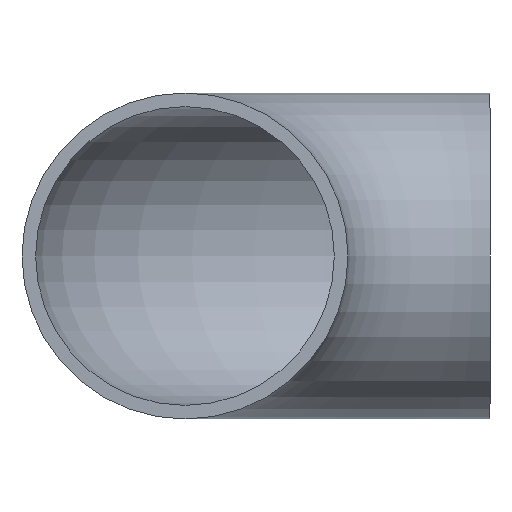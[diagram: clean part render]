
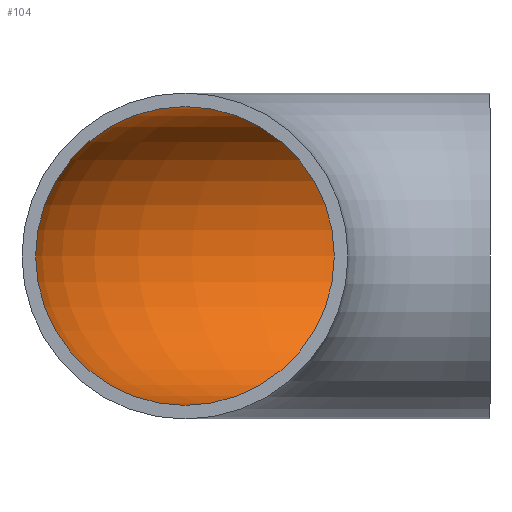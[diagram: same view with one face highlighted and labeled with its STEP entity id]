
A CAD part, front view. The second image highlights one B-rep face of the part: STEP entity #104.
In plain terms, the highlighted toroidal (fillet/blend) face has major radius 70.5 mm and minor radius 34.525 mm.
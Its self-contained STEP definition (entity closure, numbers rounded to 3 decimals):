
#12=TOROIDAL_SURFACE($,#118,70.5,34.525);
#21=FACE_BOUND($,#42,.T.);
#33=FACE_OUTER_BOUND($,#41,.T.);
#41=EDGE_LOOP($,(#80));
#42=EDGE_LOOP($,(#81));
#55=CIRCLE($,#119,34.525);
#56=CIRCLE($,#120,34.525);
#63=VERTEX_POINT($,#217);
#64=VERTEX_POINT($,#219);
#71=EDGE_CURVE($,#63,#63,#55,.T.);
#72=EDGE_CURVE($,#64,#64,#56,.T.);
#80=ORIENTED_EDGE($,*,*,#71,.F.);
#81=ORIENTED_EDGE($,*,*,#72,.T.);
#104=ADVANCED_FACE($,(#33,#21),#12,.F.);
#118=AXIS2_PLACEMENT_3D($,#216,#141,#142);
#119=AXIS2_PLACEMENT_3D($,#218,#143,#144);
#120=AXIS2_PLACEMENT_3D($,#220,#145,#146);
#141=DIRECTION('center_axis',(0.,0.,-1.));
#142=DIRECTION('ref_axis',(-1.,0.,0.));
#143=DIRECTION('center_axis',(-1.,0.,0.));
#144=DIRECTION('ref_axis',(0.,1.,0.));
#145=DIRECTION('center_axis',(0.,-1.,0.));
#146=DIRECTION('ref_axis',(1.,0.,0.));
#216=CARTESIAN_POINT('Origin',(70.5,140.5,0.));
#217=CARTESIAN_POINT('',(70.5,245.525,0.));
#218=CARTESIAN_POINT('Origin',(70.5,211.,0.));
#219=CARTESIAN_POINT('',(-34.525,140.5,0.));
#220=CARTESIAN_POINT('Origin',(0.,140.5,0.));
